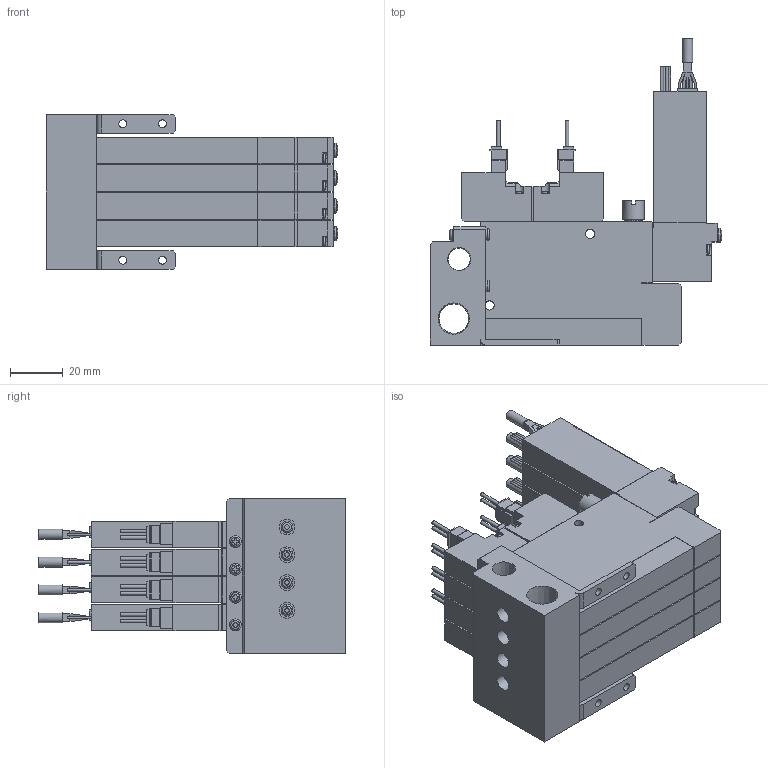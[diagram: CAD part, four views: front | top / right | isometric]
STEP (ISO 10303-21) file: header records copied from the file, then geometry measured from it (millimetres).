
FILE_DESCRIPTION(('STEP AP203'),'1');
FILE_NAME('10C5SC404_3D.stp','2024-09-04T13:58:26',(' '),(' '),'Spatial InterOp 3D',' ',' ');
FILE_SCHEMA(('CONFIG_CONTROL_DESIGN'));
Length unit declared in the file: millimetre
Products named in the file (5): BSC1M※※10C5SC404; Solenoid valve S; Pressure Sensor 10; Unit-C; BaseMC40R
Assembly tree (13 placements, depth 2):
  BSC1M※※10C5SC404
    Solenoid valve S  x4
    Pressure Sensor 10  x4
    Unit-C  x4
    BaseMC40R
Bounding box: 110.35 x 115.8 x 58.5 mm (x, y, z)
Volume: 267275.5 mm3; surface area: 93024.4 mm2
Topology: 13 solids, 13 shells, 1787 faces, 4807 edges, 3174 vertices
Faces by surface type: plane 1367, cylinder 340, cone 32, sphere 24, torus 24
Full cylindrical faces by diameter (mm): 0.9 x16, 1.4 x16, 2.5 x8, 3 x20, 3.5 x32, 3.8 x4, 4 x4, 4.134 x8, 4.5 x12, 5.5 x8, 6 x4, 7 x8, 8 x4, 8.422 x1, 11.233 x1
Entity records: 19523 total; most frequent: CARTESIAN_POINT 4285, DIRECTION 3049, ORIENTED_EDGE 2962, EDGE_CURVE 1481, VERTEX_POINT 1038, LINE 1037, VECTOR 1037, AXIS2_PLACEMENT_3D 1006
